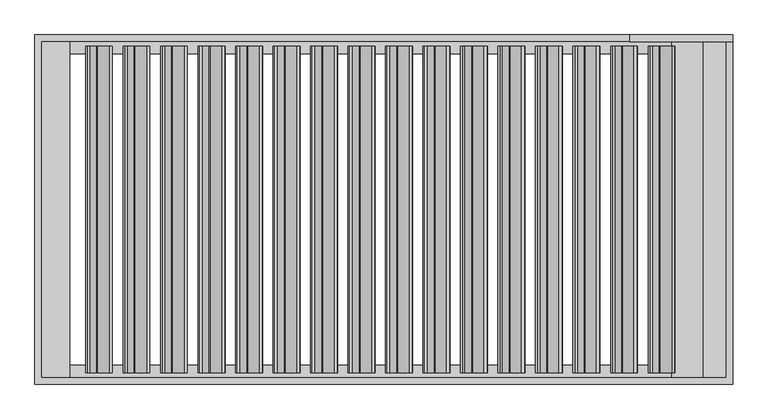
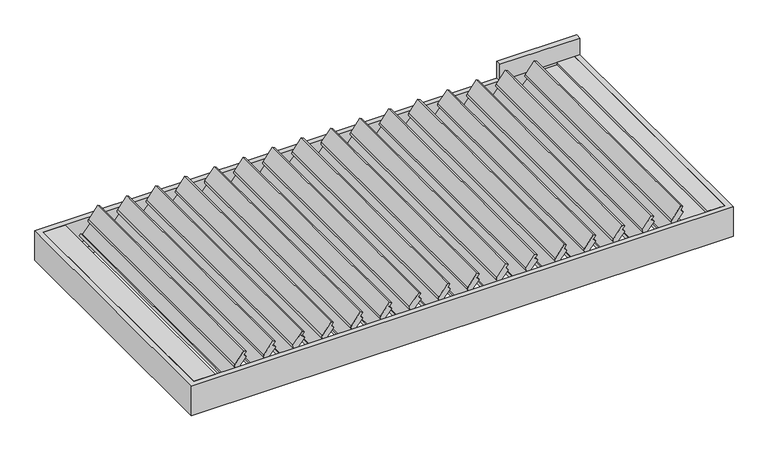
"""IFC4 building model written with IfcOpenShell, lengths in millimetres: proxy geometry, Renson_Aero_Patio covers : Aero - Single."""

from ifc_helpers import new_model, si_unit, point, frame, frame_2d, origin, origin_with_axes, place, context, project, spatial, polyline, circle_curve, trimmed, segment, composite_curve, outline, extrude, faceted_brep, source, transform, mapped, element, save


def generic_models_456f33a1(model_context):
    return source(origin(), model_context, "Body", "SolidModel", [
        extrude(outline(composite_curve([segment(polyline([(38.6941425, 1454.2920378), (58.328832, 1434.6573482), (81.3082125, 1452.1312752), (91.2056128, 1434.9884749), (3.54674, 1368.3311191)]), True, "CONTINUOUS"), segment(trimmed(circle_curve(frame_2d((-5.5326698, 1380.2711491)), 15.0), [point((3.54674, 1368.3311191))], [point((-15.174484, 1368.7804825))], False, "CARTESIAN"), True, "CONTINUOUS"), segment(polyline([(-15.174484, 1368.7804825), (-30.1324311, 1381.3316904), (-97.3419348, 1324.9362206), (-88.6707887, 1309.9173551), (-100.8453082, 1300.6596354), (-120.7163908, 1320.5307181), (38.6941425, 1454.2920378)]), True, "CONTINUOUS")], self_intersect=False)), frame((0.0, -935.0, 0.0), z_axis=(0.0, 1.0, 0.0), x_axis=(0.0, 0.0, 1.0)), (0.0, 0.0, 1.0), 1870.0),
        extrude(outline(composite_curve([segment(polyline([(38.6941425, 1239.2805127), (58.328832, 1219.6458231), (81.3082125, 1237.1197501), (91.2056128, 1219.9769498), (3.54674, 1153.319594)]), True, "CONTINUOUS"), segment(trimmed(circle_curve(frame_2d((-5.5326698, 1165.259624)), 15.0), [point((3.54674, 1153.319594))], [point((-15.174484, 1153.7689574))], False, "CARTESIAN"), True, "CONTINUOUS"), segment(polyline([(-15.174484, 1153.7689574), (-30.1324311, 1166.3201653), (-97.3419348, 1109.9246955), (-88.6707887, 1094.90583), (-100.8453082, 1085.6481103), (-120.7163908, 1105.519193), (38.6941425, 1239.2805127)]), True, "CONTINUOUS")], self_intersect=False)), frame((0.0, -935.0, 0.0), z_axis=(0.0, 1.0, 0.0), x_axis=(0.0, 0.0, 1.0)), (0.0, 0.0, 1.0), 1870.0),
        extrude(outline(composite_curve([segment(polyline([(38.6941425, 1024.2689876), (58.328832, 1004.634298), (81.3082125, 1022.108225), (91.2056128, 1004.9654247), (3.54674, 938.3080689)]), True, "CONTINUOUS"), segment(trimmed(circle_curve(frame_2d((-5.5326698, 950.2480989)), 15.0), [point((3.54674, 938.3080689))], [point((-15.174484, 938.7574323))], False, "CARTESIAN"), True, "CONTINUOUS"), segment(polyline([(-15.174484, 938.7574323), (-30.1324311, 951.3086402), (-97.3419348, 894.9131704), (-88.6707887, 879.8943049), (-100.8453082, 870.6365852), (-120.7163908, 890.5076679), (38.6941425, 1024.2689876)]), True, "CONTINUOUS")], self_intersect=False)), frame((0.0, -935.0, 0.0), z_axis=(0.0, 1.0, 0.0), x_axis=(0.0, 0.0, 1.0)), (0.0, 0.0, 1.0), 1870.0),
        extrude(outline(composite_curve([segment(polyline([(38.6941425, 809.2574625), (58.328832, 789.6227729), (81.3082125, 807.0966999), (91.2056128, 789.9538996), (3.54674, 723.2965438)]), True, "CONTINUOUS"), segment(trimmed(circle_curve(frame_2d((-5.5326698, 735.2365738)), 15.0), [point((3.54674, 723.2965438))], [point((-15.174484, 723.7459072))], False, "CARTESIAN"), True, "CONTINUOUS"), segment(polyline([(-15.174484, 723.7459072), (-30.1324311, 736.2971151), (-97.3419348, 679.9016453), (-88.6707887, 664.8827798), (-100.8453082, 655.6250601), (-120.7163908, 675.4961428), (38.6941425, 809.2574625)]), True, "CONTINUOUS")], self_intersect=False)), frame((0.0, -935.0, 0.0), z_axis=(0.0, 1.0, 0.0), x_axis=(0.0, 0.0, 1.0)), (0.0, 0.0, 1.0), 1870.0),
        extrude(outline(composite_curve([segment(polyline([(38.6941425, 594.2459374), (58.328832, 574.6112478), (81.3082125, 592.0851748), (91.2056128, 574.9423745), (3.54674, 508.2850187)]), True, "CONTINUOUS"), segment(trimmed(circle_curve(frame_2d((-5.5326698, 520.2250487)), 15.0), [point((3.54674, 508.2850187))], [point((-15.174484, 508.7343821))], False, "CARTESIAN"), True, "CONTINUOUS"), segment(polyline([(-15.174484, 508.7343821), (-30.1324311, 521.28559), (-97.3419348, 464.8901202), (-88.6707887, 449.8712547), (-100.8453082, 440.613535), (-120.7163908, 460.4846177), (38.6941425, 594.2459374)]), True, "CONTINUOUS")], self_intersect=False)), frame((0.0, -935.0, 0.0), z_axis=(0.0, 1.0, 0.0), x_axis=(0.0, 0.0, 1.0)), (0.0, 0.0, 1.0), 1870.0),
        extrude(outline(composite_curve([segment(polyline([(38.6941425, 379.2344123), (58.328832, 359.5997227), (81.3082125, 377.0736497), (91.2056128, 359.9308494), (3.54674, 293.2734936)]), True, "CONTINUOUS"), segment(trimmed(circle_curve(frame_2d((-5.5326698, 305.2135236)), 15.0), [point((3.54674, 293.2734936))], [point((-15.174484, 293.722857))], False, "CARTESIAN"), True, "CONTINUOUS"), segment(polyline([(-15.174484, 293.722857), (-30.1324311, 306.2740649), (-97.3419348, 249.8785951), (-88.6707887, 234.8597296), (-100.8453082, 225.6020099), (-120.7163908, 245.4730926), (38.6941425, 379.2344123)]), True, "CONTINUOUS")], self_intersect=False)), frame((0.0, -935.0, 0.0), z_axis=(0.0, 1.0, 0.0), x_axis=(0.0, 0.0, 1.0)), (0.0, 0.0, 1.0), 1870.0),
        extrude(outline(composite_curve([segment(polyline([(38.6941425, 164.2228872), (58.328832, 144.5881976), (81.3082125, 162.0621246), (91.2056128, 144.9193243), (3.54674, 78.2619685)]), True, "CONTINUOUS"), segment(trimmed(circle_curve(frame_2d((-5.5326698, 90.2019985)), 15.0), [point((3.54674, 78.2619685))], [point((-15.174484, 78.7113319))], False, "CARTESIAN"), True, "CONTINUOUS"), segment(polyline([(-15.174484, 78.7113319), (-30.1324311, 91.2625398), (-97.3419348, 34.86707), (-88.6707887, 19.8482045), (-100.8453082, 10.5904848), (-120.7163908, 30.4615675), (38.6941425, 164.2228872)]), True, "CONTINUOUS")], self_intersect=False)), frame((0.0, -935.0, 0.0), z_axis=(0.0, 1.0, 0.0), x_axis=(0.0, 0.0, 1.0)), (0.0, 0.0, 1.0), 1870.0),
        extrude(outline(composite_curve([segment(polyline([(38.6941425, -50.7886379), (58.328832, -70.4233275), (81.3082125, -52.9494005), (91.2056128, -70.0922008), (3.54674, -136.7495566)]), True, "CONTINUOUS"), segment(trimmed(circle_curve(frame_2d((-5.5326698, -124.8095266)), 15.0), [point((3.54674, -136.7495566))], [point((-15.174484, -136.3001932))], False, "CARTESIAN"), True, "CONTINUOUS"), segment(polyline([(-15.174484, -136.3001932), (-30.1324311, -123.7489853), (-97.3419348, -180.1444551), (-88.6707887, -195.1633206), (-100.8453082, -204.4210403), (-120.7163908, -184.5499576), (38.6941425, -50.7886379)]), True, "CONTINUOUS")], self_intersect=False)), frame((0.0, -935.0, 0.0), z_axis=(0.0, 1.0, 0.0), x_axis=(0.0, 0.0, 1.0)), (0.0, 0.0, 1.0), 1870.0),
        extrude(outline(composite_curve([segment(polyline([(38.6941425, -265.800163), (58.328832, -285.4348526), (81.3082125, -267.9609256), (91.2056128, -285.1037259), (3.54674, -351.7610817)]), True, "CONTINUOUS"), segment(trimmed(circle_curve(frame_2d((-5.5326698, -339.8210517)), 15.0), [point((3.54674, -351.7610817))], [point((-15.174484, -351.3117183))], False, "CARTESIAN"), True, "CONTINUOUS"), segment(polyline([(-15.174484, -351.3117183), (-30.1324311, -338.7605104), (-97.3419348, -395.1559802), (-88.6707887, -410.1748457), (-100.8453082, -419.4325654), (-120.7163908, -399.5614827), (38.6941425, -265.800163)]), True, "CONTINUOUS")], self_intersect=False)), frame((0.0, -935.0, 0.0), z_axis=(0.0, 1.0, 0.0), x_axis=(0.0, 0.0, 1.0)), (0.0, 0.0, 1.0), 1870.0),
        extrude(outline(composite_curve([segment(polyline([(38.6941425, -480.8116881), (58.328832, -500.4463777), (81.3082125, -482.9724507), (91.2056128, -500.115251), (3.54674, -566.7726068)]), True, "CONTINUOUS"), segment(trimmed(circle_curve(frame_2d((-5.5326698, -554.8325768)), 15.0), [point((3.54674, -566.7726068))], [point((-15.174484, -566.3232434))], False, "CARTESIAN"), True, "CONTINUOUS"), segment(polyline([(-15.174484, -566.3232434), (-30.1324311, -553.7720355), (-97.3419348, -610.1675053), (-88.6707887, -625.1863708), (-100.8453082, -634.4440905), (-120.7163908, -614.5730078), (38.6941425, -480.8116881)]), True, "CONTINUOUS")], self_intersect=False)), frame((0.0, -935.0, 0.0), z_axis=(0.0, 1.0, 0.0), x_axis=(0.0, 0.0, 1.0)), (0.0, 0.0, 1.0), 1870.0),
        extrude(outline(composite_curve([segment(polyline([(38.6941425, -695.8232132), (58.328832, -715.4579028), (81.3082125, -697.9839758), (91.2056128, -715.1267761), (3.54674, -781.7841319)]), True, "CONTINUOUS"), segment(trimmed(circle_curve(frame_2d((-5.5326698, -769.8441019)), 15.0), [point((3.54674, -781.7841319))], [point((-15.174484, -781.3347685))], False, "CARTESIAN"), True, "CONTINUOUS"), segment(polyline([(-15.174484, -781.3347685), (-30.1324311, -768.7835606), (-97.3419348, -825.1790304), (-88.6707887, -840.1978959), (-100.8453082, -849.4556156), (-120.7163908, -829.5845329), (38.6941425, -695.8232132)]), True, "CONTINUOUS")], self_intersect=False)), frame((0.0, -935.0, 0.0), z_axis=(0.0, 1.0, 0.0), x_axis=(0.0, 0.0, 1.0)), (0.0, 0.0, 1.0), 1870.0),
        extrude(outline(composite_curve([segment(polyline([(38.6941425, -910.8347383), (58.328832, -930.4694279), (81.3082125, -912.9955009), (91.2056128, -930.1383012), (3.54674, -996.795657)]), True, "CONTINUOUS"), segment(trimmed(circle_curve(frame_2d((-5.5326698, -984.855627)), 15.0), [point((3.54674, -996.795657))], [point((-15.174484, -996.3462936))], False, "CARTESIAN"), True, "CONTINUOUS"), segment(polyline([(-15.174484, -996.3462936), (-30.1324311, -983.7950857), (-97.3419348, -1040.1905555), (-88.6707887, -1055.209421), (-100.8453082, -1064.4671407), (-120.7163908, -1044.596058), (38.6941425, -910.8347383)]), True, "CONTINUOUS")], self_intersect=False)), frame((0.0, -935.0, 0.0), z_axis=(0.0, 1.0, 0.0), x_axis=(0.0, 0.0, 1.0)), (0.0, 0.0, 1.0), 1870.0),
        extrude(outline(composite_curve([segment(polyline([(38.6941425, -1125.8462634), (58.328832, -1145.480953), (81.3082125, -1128.007026), (91.2056128, -1145.1498263), (3.54674, -1211.8071821)]), True, "CONTINUOUS"), segment(trimmed(circle_curve(frame_2d((-5.5326698, -1199.8671521)), 15.0), [point((3.54674, -1211.8071821))], [point((-15.174484, -1211.3578187))], False, "CARTESIAN"), True, "CONTINUOUS"), segment(polyline([(-15.174484, -1211.3578187), (-30.1324311, -1198.8066108), (-97.3419348, -1255.2020806), (-88.6707887, -1270.2209461), (-100.8453082, -1279.4786658), (-120.7163908, -1259.6075831), (38.6941425, -1125.8462634)]), True, "CONTINUOUS")], self_intersect=False)), frame((0.0, -935.0, 0.0), z_axis=(0.0, 1.0, 0.0), x_axis=(0.0, 0.0, 1.0)), (0.0, 0.0, 1.0), 1870.0),
        extrude(outline(composite_curve([segment(polyline([(38.6941425, -1340.8577885), (58.328832, -1360.4924781), (81.3082125, -1343.0185511), (91.2056128, -1360.1613514), (3.54674, -1426.8187072)]), True, "CONTINUOUS"), segment(trimmed(circle_curve(frame_2d((-5.5326698, -1414.8786772)), 15.0), [point((3.54674, -1426.8187072))], [point((-15.174484, -1426.3693438))], False, "CARTESIAN"), True, "CONTINUOUS"), segment(polyline([(-15.174484, -1426.3693438), (-30.1324311, -1413.8181359), (-97.3419348, -1470.2136057), (-88.6707887, -1485.2324712), (-100.8453082, -1494.4901909), (-120.7163908, -1474.6191082), (38.6941425, -1340.8577885)]), True, "CONTINUOUS")], self_intersect=False)), frame((0.0, -935.0, 0.0), z_axis=(0.0, 1.0, 0.0), x_axis=(0.0, 0.0, 1.0)), (0.0, 0.0, 1.0), 1870.0),
        extrude(outline(composite_curve([segment(polyline([(38.6941425, 1669.3035629), (58.328832, 1649.6688733), (81.3082125, 1667.1428003), (91.2056128, 1650.0), (3.54674, 1583.3426442)]), True, "CONTINUOUS"), segment(trimmed(circle_curve(frame_2d((-5.5326698, 1595.2826742)), 15.0), [point((3.54674, 1583.3426442))], [point((-15.174484, 1583.7920076))], False, "CARTESIAN"), True, "CONTINUOUS"), segment(polyline([(-15.174484, 1583.7920076), (-30.1324311, 1596.3432155), (-97.3419348, 1539.9477457), (-88.6707887, 1524.9288802), (-100.8453082, 1515.6711605), (-120.7163908, 1535.5422432), (38.6941425, 1669.3035629)]), True, "CONTINUOUS")], self_intersect=False)), frame((0.0, -935.0, 0.0), z_axis=(0.0, 1.0, 0.0), x_axis=(0.0, 0.0, 1.0)), (0.0, 0.0, 1.0), 1870.0),
        extrude(outline(composite_curve([segment(polyline([(38.6941425, -1555.8693136), (58.328832, -1575.5040032), (81.3082125, -1558.0300762), (91.2056128, -1575.1728765), (3.54674, -1641.8302323)]), True, "CONTINUOUS"), segment(trimmed(circle_curve(frame_2d((-5.5326698, -1629.8902023)), 15.0), [point((3.54674, -1641.8302323))], [point((-15.174484, -1641.3808689))], False, "CARTESIAN"), True, "CONTINUOUS"), segment(polyline([(-15.174484, -1641.3808689), (-30.1324311, -1628.829661), (-97.3419348, -1685.2251308), (-88.6707887, -1700.2439963), (-100.8453082, -1709.501716), (-120.7163908, -1689.6306333), (38.6941425, -1555.8693136)]), True, "CONTINUOUS")], self_intersect=False)), frame((0.0, -935.0, 0.0), z_axis=(0.0, 1.0, 0.0), x_axis=(0.0, 0.0, 1.0)), (0.0, 0.0, 1.0), 1870.0),
        extrude(outline(polyline([(-63.35, 1960.0), (0.0, 1960.0), (0.0, 1830.5), (-20.0, 1830.5), (-20.0, 1650.0), (-44.0, 1650.0), (-44.0, 1800.0), (-63.35, 1800.0), (-63.35, 1960.0)])), frame((0.0, -960.0, 0.0), z_axis=(0.0, 1.0, 0.0), x_axis=(0.0, 0.0, 1.0)), (0.0, 0.0, 1.0), 1920.0),
        extrude(outline(polyline([(0.0, -1800.0), (0.0, -1960.0), (-44.0, -1960.0), (-44.0, -1827.3193336), (-10.8283397, -1824.4171894), (-9.655498, -1800.0), (0.0, -1800.0)])), frame((0.0, -960.0, 0.0), z_axis=(0.0, 1.0, 0.0), x_axis=(0.0, 0.0, 1.0)), (0.0, 0.0, 1.0), 1920.0),
        extrude(outline(polyline([(2000.0, 1000.0), (2000.0, 960.0), (1410.0, 960.0), (1410.0, 1000.0), (2000.0, 1000.0)])), origin_with_axes(), (0.0, 0.0, 1.0), 130.0),
        faceted_brep([(-1960.0, 960.0, 0.0), (-1960.0, 960.0, -173.0), (1960.0, 960.0, -173.0), (1960.0, 960.0, 0.0), (-2000.0, 1000.0, -230.0), (-2000.0, 1000.0, 0.0), (2000.0, 1000.0, 0.0), (2000.0, 1000.0, -230.0), (-1890.0, 890.0, -173.0), (-1890.0, 890.0, -230.0), (1890.0, 890.0, -230.0), (1890.0, 890.0, -173.0), (1960.0, -960.0, -173.0), (1960.0, -960.0, 0.0), (2000.0, -1000.0, 0.0), (2000.0, -1000.0, -230.0), (1890.0, -890.0, -230.0), (1890.0, -890.0, -173.0), (-1960.0, -960.0, -173.0), (-1960.0, -960.0, 0.0), (-2000.0, -1000.0, 0.0), (-2000.0, -1000.0, -230.0), (-1890.0, -890.0, -230.0), (-1890.0, -890.0, -173.0)], [[[0, 1, 2, 3]], [[4, 5, 6, 7]], [[8, 9, 10, 11]], [[3, 2, 12, 13]], [[7, 6, 14, 15]], [[11, 10, 16, 17]], [[13, 12, 18, 19]], [[15, 14, 20, 21]], [[17, 16, 22, 23]], [[19, 18, 1, 0]], [[5, 20, 14, 6], [3, 13, 19, 0]], [[21, 20, 5, 4]], [[7, 15, 21, 4], [9, 22, 16, 10]], [[23, 22, 9, 8]], [[1, 18, 12, 2], [11, 17, 23, 8]]]),
    ])


if __name__ == "__main__":
    model = new_model("IFC4")
    model_context = context("Model", 3, world=origin())
    ifc_project = project(units=[si_unit("LENGTHUNIT", "METRE", prefix="MILLI")], contexts=[model_context])
    site = spatial("IfcSite", under=ifc_project)
    building = spatial("IfcBuilding", under=site)
    placement = place(None, origin())
    generic_models_shape = generic_models_456f33a1(model_context)
    element("IfcBuildingElementProxy", 1, Name="Renson_Aero_Patio covers : Aero - Single", ObjectType="Renson_Aero_Patio covers : Aero - Single", at=placement, inside=building, context=model_context, shape_type="MappedRepresentation", body=[
        mapped(generic_models_shape, transform((0.0, 0.0, 0.0), x_axis=(1.0, 0.0, 0.0), y_axis=(0.0, 1.0, 0.0), z_axis=(0.0, 0.0, 1.0))),
    ])
    save(model, "model.ifc")
